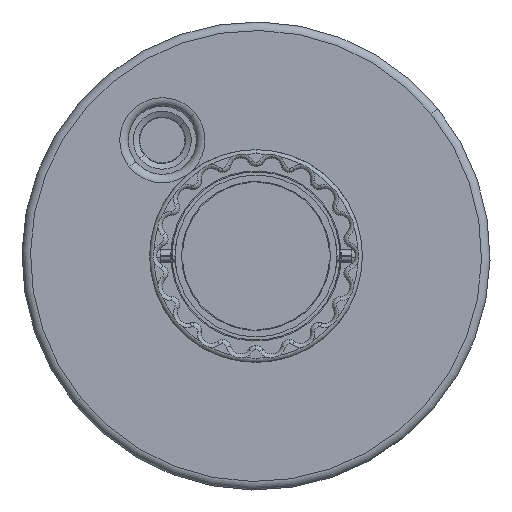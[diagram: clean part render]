
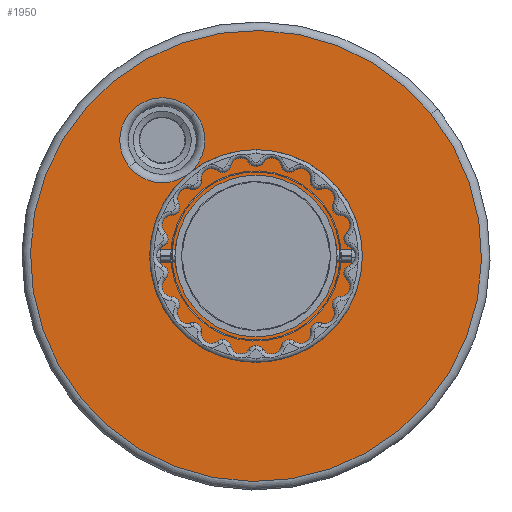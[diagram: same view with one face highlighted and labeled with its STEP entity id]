
A CAD part, front view. The second image highlights one B-rep face of the part: STEP entity #1950.
In plain terms, the highlighted planar face has unit normal (0, -1, 0).
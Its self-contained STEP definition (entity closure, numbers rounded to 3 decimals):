
#11 = CARTESIAN_POINT ( 'NONE',  ( -22.024, 1059.722, 27.202 ) ) ;
#317 = CARTESIAN_POINT ( 'NONE',  ( -29.796, 1059.722, 20.909 ) ) ;
#573 = VERTEX_POINT ( 'NONE', #7536 ) ;
#718 = DIRECTION ( 'NONE',  ( 0., 1., 0. ) ) ;
#866 = DIRECTION ( 'NONE',  ( 0.777, 0., 0.629 ) ) ;
#953 = FACE_OUTER_BOUND ( 'NONE', #9714, .T. ) ;
#956 = DIRECTION ( 'NONE',  ( 0., 1., 0. ) ) ;
#1069 = CIRCLE ( 'NONE', #4485, 10. ) ;
#1293 = AXIS2_PLACEMENT_3D ( 'NONE', #6037, #956, #6879 ) ;
#1667 = PLANE ( 'NONE',  #8475 ) ;
#1776 = DIRECTION ( 'NONE',  ( 0., 1., 0. ) ) ;
#1950 = ADVANCED_FACE ( 'NONE', ( #5455, #3203, #953 ), #1667, .F. ) ;
#2327 = CARTESIAN_POINT ( 'NONE',  ( 0., 1059.722, 0. ) ) ;
#2399 = ORIENTED_EDGE ( 'NONE', *, *, #2811, .T. ) ;
#2811 = EDGE_CURVE ( 'NONE', #9611, #8588, #1069, .T. ) ;
#2871 = AXIS2_PLACEMENT_3D ( 'NONE', #2327, #8231, #3165 ) ;
#3140 = AXIS2_PLACEMENT_3D ( 'NONE', #6837, #1776, #7681 ) ;
#3165 = DIRECTION ( 'NONE',  ( 0.777, 0., 0.629 ) ) ;
#3203 = FACE_BOUND ( 'NONE', #9602, .T. ) ;
#3345 = DIRECTION ( 'NONE',  ( 0., 1., 0. ) ) ;
#3355 = DIRECTION ( 'NONE',  ( 0., 1., 0. ) ) ;
#3834 = VERTEX_POINT ( 'NONE', #6845 ) ;
#3939 = ORIENTED_EDGE ( 'NONE', *, *, #4658, .F. ) ;
#4060 = CARTESIAN_POINT ( 'NONE',  ( -14.252, 1059.722, 33.494 ) ) ;
#4203 = EDGE_CURVE ( 'NONE', #9468, #573, #6604, .T. ) ;
#4330 = AXIS2_PLACEMENT_3D ( 'NONE', #5798, #718, #6641 ) ;
#4485 = AXIS2_PLACEMENT_3D ( 'NONE', #8407, #3345, #9249 ) ;
#4491 = ORIENTED_EDGE ( 'NONE', *, *, #5477, .T. ) ;
#4658 = EDGE_CURVE ( 'NONE', #573, #9468, #9352, .T. ) ;
#5344 = EDGE_CURVE ( 'NONE', #8588, #9611, #8810, .T. ) ;
#5354 = AXIS2_PLACEMENT_3D ( 'NONE', #11, #5953, #866 ) ;
#5455 = FACE_BOUND ( 'NONE', #7363, .T. ) ;
#5477 = EDGE_CURVE ( 'NONE', #3834, #7606, #8025, .T. ) ;
#5649 = ORIENTED_EDGE ( 'NONE', *, *, #4203, .F. ) ;
#5798 = CARTESIAN_POINT ( 'NONE',  ( 0., 1059.722, 0. ) ) ;
#5953 = DIRECTION ( 'NONE',  ( 0., 1., 0. ) ) ;
#6037 = CARTESIAN_POINT ( 'NONE',  ( 0., 1059.722, 0. ) ) ;
#6546 = ORIENTED_EDGE ( 'NONE', *, *, #5344, .T. ) ;
#6604 = CIRCLE ( 'NONE', #1293, 53. ) ;
#6641 = DIRECTION ( 'NONE',  ( 0.777, 0., 0.629 ) ) ;
#6727 = CARTESIAN_POINT ( 'NONE',  ( 0., 1059.722, 0. ) ) ;
#6812 = CIRCLE ( 'NONE', #4330, 10. ) ;
#6837 = CARTESIAN_POINT ( 'NONE',  ( 0., 1059.722, 0. ) ) ;
#6845 = CARTESIAN_POINT ( 'NONE',  ( -7.772, 1059.722, -6.293 ) ) ;
#6879 = DIRECTION ( 'NONE',  ( 0.777, 0., 0.629 ) ) ;
#7363 = EDGE_LOOP ( 'NONE', ( #2399, #6546 ) ) ;
#7536 = CARTESIAN_POINT ( 'NONE',  ( -41.191, 1059.722, -33.351 ) ) ;
#7606 = VERTEX_POINT ( 'NONE', #8305 ) ;
#7681 = DIRECTION ( 'NONE',  ( 0.777, 0., 0.629 ) ) ;
#7702 = EDGE_CURVE ( 'NONE', #7606, #3834, #6812, .T. ) ;
#8025 = CIRCLE ( 'NONE', #2871, 10. ) ;
#8231 = DIRECTION ( 'NONE',  ( 0., 1., 0. ) ) ;
#8305 = CARTESIAN_POINT ( 'NONE',  ( 7.772, 1059.722, 6.293 ) ) ;
#8407 = CARTESIAN_POINT ( 'NONE',  ( -22.024, 1059.722, 27.202 ) ) ;
#8475 = AXIS2_PLACEMENT_3D ( 'NONE', #6727, #3355, #9263 ) ;
#8588 = VERTEX_POINT ( 'NONE', #317 ) ;
#8810 = CIRCLE ( 'NONE', #5354, 10. ) ;
#9249 = DIRECTION ( 'NONE',  ( 0.777, 0., 0.629 ) ) ;
#9263 = DIRECTION ( 'NONE',  ( 0.777, 0., 0.629 ) ) ;
#9352 = CIRCLE ( 'NONE', #3140, 53. ) ;
#9468 = VERTEX_POINT ( 'NONE', #9644 ) ;
#9602 = EDGE_LOOP ( 'NONE', ( #9716, #4491 ) ) ;
#9611 = VERTEX_POINT ( 'NONE', #4060 ) ;
#9644 = CARTESIAN_POINT ( 'NONE',  ( 41.191, 1059.722, 33.351 ) ) ;
#9714 = EDGE_LOOP ( 'NONE', ( #5649, #3939 ) ) ;
#9716 = ORIENTED_EDGE ( 'NONE', *, *, #7702, .T. ) ;
